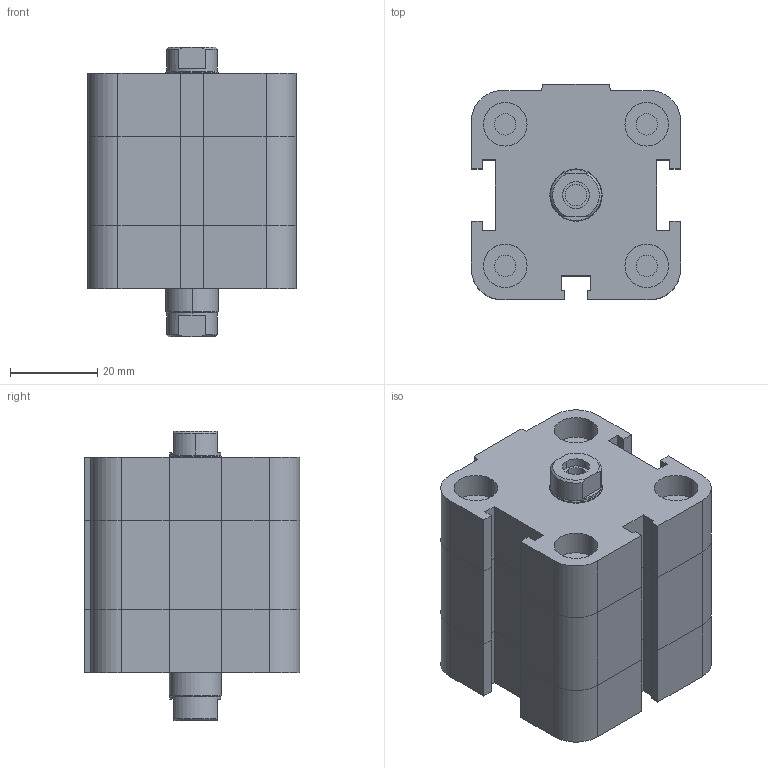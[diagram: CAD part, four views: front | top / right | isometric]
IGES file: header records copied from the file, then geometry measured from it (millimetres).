
Global section: file name: No Iges File Name specified; native system: Autodesk Inventor 2009; preprocessor: AutoDesk Inventor Iges Exporter R2009; author: maffial1; date: 20090420.200332; units: millimetre
Bounding box: 48 x 49.5 x 66.5 mm (x, y, z)
Volume: 98741.1 mm3; surface area: 23849.1 mm2
Topology: 2 solids, 2 shells, 202 faces, 450 edges, 274 vertices
Faces by surface type: plane 114, bspline 42, revolution 20, cylinder 18, cone 8
